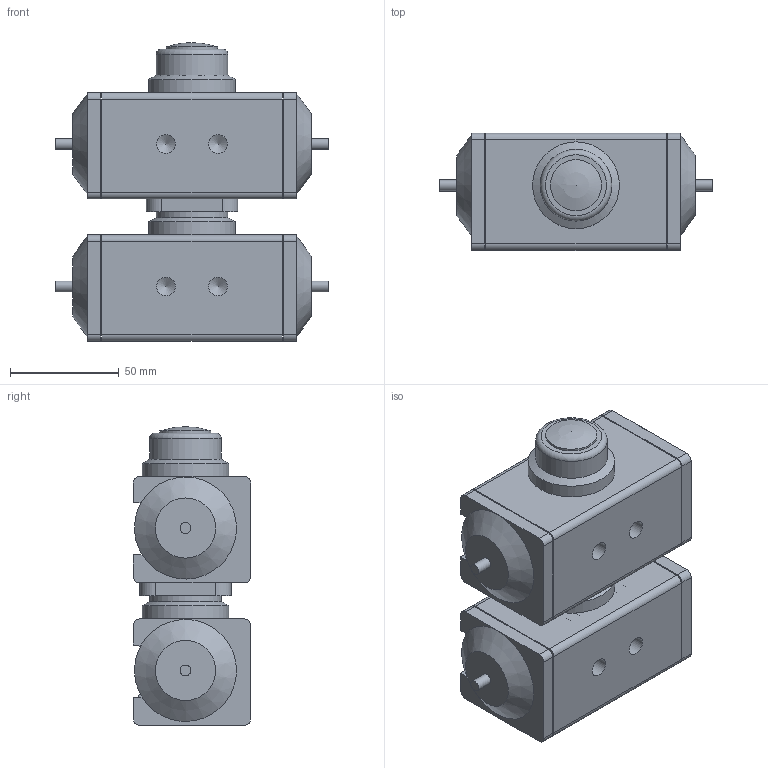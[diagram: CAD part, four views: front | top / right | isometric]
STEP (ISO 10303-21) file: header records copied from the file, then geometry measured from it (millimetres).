
FILE_DESCRIPTION( ( 'Unknown' ), '1' );
FILE_NAME( 'W:/ECCUA/ROOTSI BPS 3D vidinad/Kuulkraanid/Roostevaba kuulkraanid/Ball valve BPS 2420/Ball valve with pneumatic actuator BPS/STEP format/BPS 2420015P ball valve DN15.stp', 'Unknown', ( 'Unknown' ), ( 'Unknown' ), 'PSStep 10.1', 'Unknown', ' ' );
FILE_SCHEMA( ( 'AUTOMOTIVE_DESIGN { 1 0 10303 214 1 1 1 1 }' ) );
Length unit declared in the file: millimetre
Products named in the file (3): Assem1; BPS 2420015 ball valve DN15; BPS 8300035DA-SR pneumatic actuator
Bounding box: 126 x 54 x 137.6 mm (x, y, z)
Volume: 706576.4 mm3; surface area: 132704.7 mm2
Topology: 4 solids, 4 shells, 760 faces, 1934 edges, 1284 vertices
Faces by surface type: plane 446, cylinder 200, bspline 82, cone 28, torus 2, sphere 2
Full cylindrical faces by diameter (mm): 4.134 x8, 4.917 x8, 5 x8, 6 x24, 8.566 x4, 15 x2, 18.631 x4, 21 x2, 23.5 x2, 31 x2, 33 x2, 34 x2, 40 x2
Entity records: 17573 total; most frequent: CARTESIAN_POINT 6234, ORIENTED_EDGE 1750, DIRECTION 1428, EDGE_CURVE 875, VERTEX_POINT 617, AXIS2_PLACEMENT_3D 517, EDGE_LOOP 506, FACE_OUTER_BOUND 422
